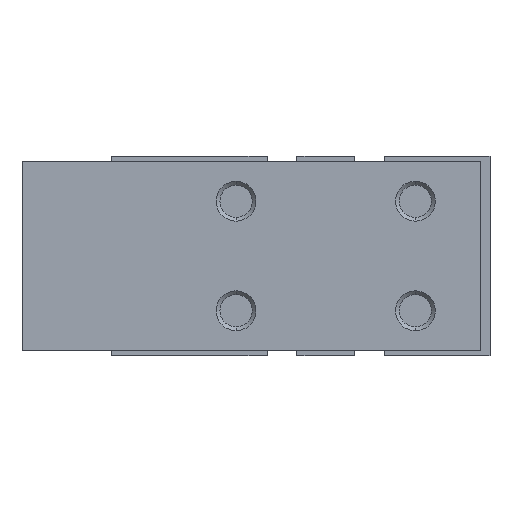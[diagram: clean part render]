
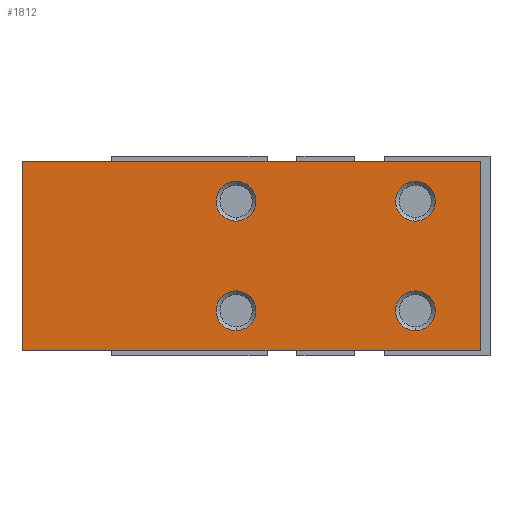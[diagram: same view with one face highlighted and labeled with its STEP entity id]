
A CAD part, left-side view. The second image highlights one B-rep face of the part: STEP entity #1812.
In plain terms, the highlighted planar face has unit normal (-1, 0, 0).
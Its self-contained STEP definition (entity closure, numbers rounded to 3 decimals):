
#54 = ORIENTED_EDGE ( 'NONE', *, *, #4367, .F. ) ;
#65 = DIRECTION ( 'NONE',  ( 0., 0., 1. ) ) ;
#206 = FACE_BOUND ( 'NONE', #883, .T. ) ;
#219 = DIRECTION ( 'NONE',  ( 0., -1., 0. ) ) ;
#237 = FACE_BOUND ( 'NONE', #5216, .T. ) ;
#271 = LINE ( 'NONE', #3154, #2414 ) ;
#297 = CARTESIAN_POINT ( 'NONE',  ( -11.5, 9., 7.5 ) ) ;
#467 = CARTESIAN_POINT ( 'NONE',  ( -11.5, 9., 5.5 ) ) ;
#536 = EDGE_CURVE ( 'NONE', #3578, #1822, #885, .T. ) ;
#623 = LINE ( 'NONE', #3400, #1097 ) ;
#693 = CARTESIAN_POINT ( 'NONE',  ( -11.5, -9., 7.5 ) ) ;
#850 = CARTESIAN_POINT ( 'NONE',  ( -11.5, 9., -7.5 ) ) ;
#883 = EDGE_LOOP ( 'NONE', ( #938, #4097 ) ) ;
#885 = LINE ( 'NONE', #2730, #1562 ) ;
#926 = CIRCLE ( 'NONE', #3244, 2. ) ;
#931 = ORIENTED_EDGE ( 'NONE', *, *, #536, .F. ) ;
#938 = ORIENTED_EDGE ( 'NONE', *, *, #5336, .F. ) ;
#939 = DIRECTION ( 'NONE',  ( 0., 0., 1. ) ) ;
#995 = DIRECTION ( 'NONE',  ( 0., 0., -1. ) ) ;
#1039 = CARTESIAN_POINT ( 'NONE',  ( -11.5, 30.5, -9.5 ) ) ;
#1097 = VECTOR ( 'NONE', #219, 1000. ) ;
#1182 = FACE_OUTER_BOUND ( 'NONE', #3973, .T. ) ;
#1560 = AXIS2_PLACEMENT_3D ( 'NONE', #467, #4208, #3278 ) ;
#1562 = VECTOR ( 'NONE', #3297, 1000. ) ;
#1655 = EDGE_CURVE ( 'NONE', #3007, #5324, #5145, .T. ) ;
#1723 = AXIS2_PLACEMENT_3D ( 'NONE', #2075, #3945, #3488 ) ;
#1740 = ORIENTED_EDGE ( 'NONE', *, *, #5054, .F. ) ;
#1812 = ADVANCED_FACE ( 'NONE', ( #1182, #206, #3475, #237, #2059 ), #3898, .F. ) ;
#1822 = VERTEX_POINT ( 'NONE', #2962 ) ;
#1830 = CARTESIAN_POINT ( 'NONE',  ( -11.5, -9., -3.5 ) ) ;
#1877 = DIRECTION ( 'NONE',  ( -1., 0., 0. ) ) ;
#1908 = DIRECTION ( 'NONE',  ( -1., 0., 0. ) ) ;
#1940 = EDGE_CURVE ( 'NONE', #1822, #5337, #271, .T. ) ;
#2059 = FACE_BOUND ( 'NONE', #5894, .T. ) ;
#2075 = CARTESIAN_POINT ( 'NONE',  ( -11.5, -9., 5.5 ) ) ;
#2096 = VERTEX_POINT ( 'NONE', #1830 ) ;
#2121 = DIRECTION ( 'NONE',  ( 0., 0., -1. ) ) ;
#2164 = DIRECTION ( 'NONE',  ( 0., 0., 1. ) ) ;
#2192 = ORIENTED_EDGE ( 'NONE', *, *, #1940, .F. ) ;
#2281 = AXIS2_PLACEMENT_3D ( 'NONE', #3988, #5804, #3570 ) ;
#2370 = CIRCLE ( 'NONE', #2281, 2. ) ;
#2414 = VECTOR ( 'NONE', #2121, 1000. ) ;
#2415 = CARTESIAN_POINT ( 'NONE',  ( -11.5, 30.5, 9.5 ) ) ;
#2458 = DIRECTION ( 'NONE',  ( 0., 1., 0. ) ) ;
#2460 = CARTESIAN_POINT ( 'NONE',  ( -11.5, 9., 3.5 ) ) ;
#2487 = EDGE_CURVE ( 'NONE', #3313, #2959, #3170, .T. ) ;
#2629 = ORIENTED_EDGE ( 'NONE', *, *, #4300, .T. ) ;
#2730 = CARTESIAN_POINT ( 'NONE',  ( -11.5, 30.5, 9.5 ) ) ;
#2759 = EDGE_CURVE ( 'NONE', #2959, #3313, #5497, .T. ) ;
#2937 = ORIENTED_EDGE ( 'NONE', *, *, #1655, .F. ) ;
#2959 = VERTEX_POINT ( 'NONE', #693 ) ;
#2962 = CARTESIAN_POINT ( 'NONE',  ( -11.5, -15.5, 9.5 ) ) ;
#3007 = VERTEX_POINT ( 'NONE', #2460 ) ;
#3070 = AXIS2_PLACEMENT_3D ( 'NONE', #5544, #3716, #939 ) ;
#3154 = CARTESIAN_POINT ( 'NONE',  ( -11.5, -15.5, 9.5 ) ) ;
#3170 = CIRCLE ( 'NONE', #3070, 2. ) ;
#3244 = AXIS2_PLACEMENT_3D ( 'NONE', #5629, #1908, #65 ) ;
#3265 = VERTEX_POINT ( 'NONE', #3587 ) ;
#3278 = DIRECTION ( 'NONE',  ( 0., 0., 1. ) ) ;
#3297 = DIRECTION ( 'NONE',  ( 0., -1., 0. ) ) ;
#3313 = VERTEX_POINT ( 'NONE', #4617 ) ;
#3400 = CARTESIAN_POINT ( 'NONE',  ( -11.5, 30.5, -9.5 ) ) ;
#3420 = CARTESIAN_POINT ( 'NONE',  ( -11.5, 30.5, 9.5 ) ) ;
#3440 = VERTEX_POINT ( 'NONE', #1039 ) ;
#3457 = ORIENTED_EDGE ( 'NONE', *, *, #2487, .F. ) ;
#3475 = FACE_BOUND ( 'NONE', #5705, .T. ) ;
#3488 = DIRECTION ( 'NONE',  ( 0., 0., 1. ) ) ;
#3513 = AXIS2_PLACEMENT_3D ( 'NONE', #5782, #4842, #4416 ) ;
#3556 = CIRCLE ( 'NONE', #5641, 2. ) ;
#3570 = DIRECTION ( 'NONE',  ( 0., 0., 1. ) ) ;
#3578 = VERTEX_POINT ( 'NONE', #3420 ) ;
#3587 = CARTESIAN_POINT ( 'NONE',  ( -11.5, -9., -7.5 ) ) ;
#3639 = EDGE_CURVE ( 'NONE', #3265, #2096, #5355, .T. ) ;
#3716 = DIRECTION ( 'NONE',  ( -1., 0., 0. ) ) ;
#3729 = VERTEX_POINT ( 'NONE', #4574 ) ;
#3898 = PLANE ( 'NONE',  #4964 ) ;
#3945 = DIRECTION ( 'NONE',  ( -1., 0., 0. ) ) ;
#3973 = EDGE_LOOP ( 'NONE', ( #4648, #2192, #931, #2629 ) ) ;
#3988 = CARTESIAN_POINT ( 'NONE',  ( -11.5, 9., -5.5 ) ) ;
#4097 = ORIENTED_EDGE ( 'NONE', *, *, #5423, .F. ) ;
#4099 = CIRCLE ( 'NONE', #4868, 2. ) ;
#4208 = DIRECTION ( 'NONE',  ( -1., 0., 0. ) ) ;
#4224 = DIRECTION ( 'NONE',  ( 0., 0., 1. ) ) ;
#4300 = EDGE_CURVE ( 'NONE', #3578, #3440, #4712, .T. ) ;
#4367 = EDGE_CURVE ( 'NONE', #5324, #3007, #3556, .T. ) ;
#4411 = CARTESIAN_POINT ( 'NONE',  ( -11.5, -15.5, -9.5 ) ) ;
#4416 = DIRECTION ( 'NONE',  ( 0., 0., 1. ) ) ;
#4424 = DIRECTION ( 'NONE',  ( -1., 0., 0. ) ) ;
#4490 = EDGE_CURVE ( 'NONE', #3440, #5337, #623, .T. ) ;
#4574 = CARTESIAN_POINT ( 'NONE',  ( -11.5, 9., -3.5 ) ) ;
#4602 = CARTESIAN_POINT ( 'NONE',  ( -11.5, 9., 5.5 ) ) ;
#4617 = CARTESIAN_POINT ( 'NONE',  ( -11.5, -9., 3.5 ) ) ;
#4648 = ORIENTED_EDGE ( 'NONE', *, *, #4490, .T. ) ;
#4712 = LINE ( 'NONE', #2415, #4810 ) ;
#4810 = VECTOR ( 'NONE', #995, 1000. ) ;
#4842 = DIRECTION ( 'NONE',  ( -1., 0., 0. ) ) ;
#4844 = ORIENTED_EDGE ( 'NONE', *, *, #2759, .F. ) ;
#4868 = AXIS2_PLACEMENT_3D ( 'NONE', #5912, #4424, #2164 ) ;
#4964 = AXIS2_PLACEMENT_3D ( 'NONE', #5297, #5780, #2458 ) ;
#5054 = EDGE_CURVE ( 'NONE', #2096, #3265, #4099, .T. ) ;
#5145 = CIRCLE ( 'NONE', #1560, 2. ) ;
#5216 = EDGE_LOOP ( 'NONE', ( #1740, #5830 ) ) ;
#5297 = CARTESIAN_POINT ( 'NONE',  ( -11.5, 30.5, 9.5 ) ) ;
#5324 = VERTEX_POINT ( 'NONE', #297 ) ;
#5336 = EDGE_CURVE ( 'NONE', #3729, #5403, #2370, .T. ) ;
#5337 = VERTEX_POINT ( 'NONE', #4411 ) ;
#5355 = CIRCLE ( 'NONE', #3513, 2. ) ;
#5403 = VERTEX_POINT ( 'NONE', #850 ) ;
#5423 = EDGE_CURVE ( 'NONE', #5403, #3729, #926, .T. ) ;
#5497 = CIRCLE ( 'NONE', #1723, 2. ) ;
#5544 = CARTESIAN_POINT ( 'NONE',  ( -11.5, -9., 5.5 ) ) ;
#5629 = CARTESIAN_POINT ( 'NONE',  ( -11.5, 9., -5.5 ) ) ;
#5641 = AXIS2_PLACEMENT_3D ( 'NONE', #4602, #1877, #4224 ) ;
#5705 = EDGE_LOOP ( 'NONE', ( #4844, #3457 ) ) ;
#5780 = DIRECTION ( 'NONE',  ( 1., 0., 0. ) ) ;
#5782 = CARTESIAN_POINT ( 'NONE',  ( -11.5, -9., -5.5 ) ) ;
#5804 = DIRECTION ( 'NONE',  ( -1., 0., 0. ) ) ;
#5830 = ORIENTED_EDGE ( 'NONE', *, *, #3639, .F. ) ;
#5894 = EDGE_LOOP ( 'NONE', ( #54, #2937 ) ) ;
#5912 = CARTESIAN_POINT ( 'NONE',  ( -11.5, -9., -5.5 ) ) ;
